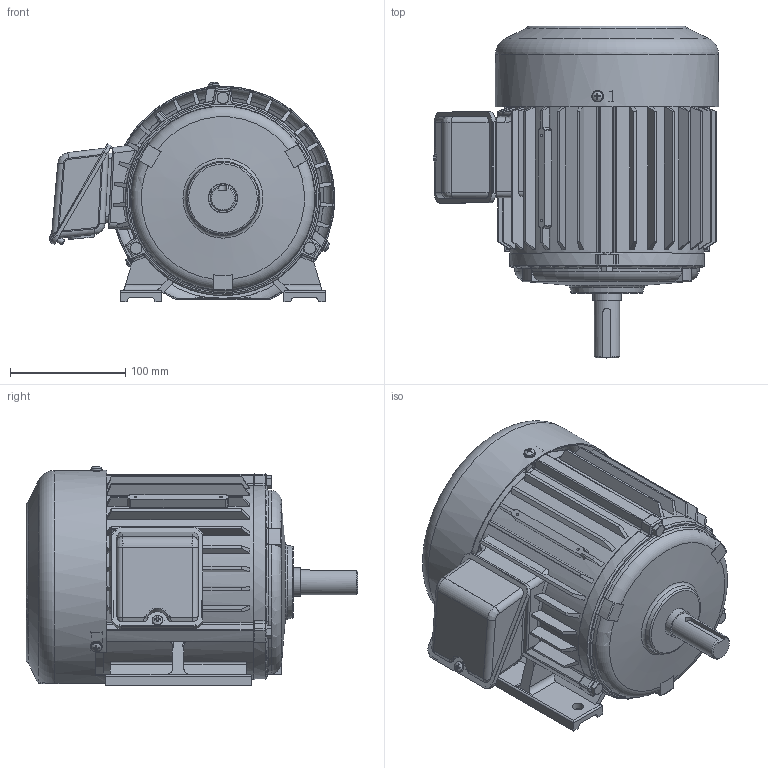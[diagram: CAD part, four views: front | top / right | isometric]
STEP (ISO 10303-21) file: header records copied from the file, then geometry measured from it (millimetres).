
FILE_DESCRIPTION(/* description */ ('Unknown'),/* implementation_level */ '2;1');
FILE_NAME(/* name */ '1-SMA-31977_외형도(160DIA)',/* time_stamp */ '2026-07-24T08:12:22+09:00',/* author */ ('Unknown'),/* organization */ ('Unknown'),/* preprocessor_version */ 'ST-DEVELOPER v16',/* originating_system */ 'DEX',/* authorisation */ $);
FILE_SCHEMA (('AUTOMOTIVE_DESIGN {1 0 10303 214 3 1 1}'));
Length unit declared in the file: millimetre
Products named in the file (22): 1-SMA-31977_寇屈档(160DI; 2-SMA-30852_FRAME(160DIA); 3-SMA-30853_擅粽塭鰍(160D; 4-SMA-30854_菴粽塭鰍(160D; 5-SMA-30855_SHAFT(160DIA); 6-SMA-31242_FAN(160DIA); 7-SMA-30643_FAN COVER(160DIA); 蹴辨 S1S18.par:1; SMA-31381_ROTOR FRONT; SMA-31381_ROTOR REAR; 幫陝獐お M6x1x6x1x25L.par:1; SMA-31467_RT CORE(160DIA); SMA-31467_ST CORE(160DIA); 敲罚瘤 绞磊  杭飘 M5x0; SMA33038,33039_攪嘐割 ; 8-SMA-33038_T-BOX(鼻)(120,140DIA); 9-SMA-33039_T-BOX(ÇÏ)(120~140DIA)tþÌ; T-BOX 憶っ(120~160DIA; T-BOX 歜衛 馨檜綰斜楠萄(120~傽(; 褊濠 菅斬 該葬 獐お M5x; 6205ZZ; 6204ZZ
Assembly tree (28 placements, depth 3):
  1-SMA-31977_寇屈档(160DI
    2-SMA-30852_FRAME(160DIA)
    3-SMA-30853_擅粽塭鰍(160D
    4-SMA-30854_菴粽塭鰍(160D
    5-SMA-30855_SHAFT(160DIA)
    6-SMA-31242_FAN(160DIA)
    7-SMA-30643_FAN COVER(160DIA)
    蹴辨 S1S18.par:1
    SMA-31381_ROTOR FRONT
    SMA-31381_ROTOR REAR
    幫陝獐お M6x1x6x1x25L.par:1  x6
    SMA-31467_RT CORE(160DIA)
    SMA-31467_ST CORE(160DIA)
    敲罚瘤 绞磊  杭飘 M5x0  x3
    SMA33038,33039_攪嘐割 
      8-SMA-33038_T-BOX(鼻)(120,140DIA)
      9-SMA-33039_T-BOX(ÇÏ)(120~140DIA)tþÌ
      T-BOX 憶っ(120~160DIA
      T-BOX 歜衛 馨檜綰斜楠萄(120~傽(
      褊濠 菅斬 該葬 獐お M5x
    6205ZZ
    6204ZZ
Bounding box: 247.67 x 288 x 190.75 mm (x, y, z)
Volume: 2142426 mm3; surface area: 940175 mm2
Topology: 49 solids, 52 shells, 2548 faces, 6770 edges, 4347 vertices
Faces by surface type: plane 944, cylinder 724, cone 336, bspline 317, torus 207, sphere 20
Full cylindrical faces by diameter (mm): 1.7 x2, 2.2 x2, 4.134 x3, 4.917 x12, 5 x7, 6 x17, 8 x6, 9 x4, 10 x7, 18.2 x2, 19.8 x1, 20 x2, 20.6 x1, 22 x3, 24.8 x1, 25 x3, 25.1 x1, 25.6 x1, 27.714 x2, 28 x1, 28.114 x2, 32.714 x2, 33 x2, 33.114 x2, 35 x2, 38.886 x2, 39.286 x2, 43.886 x2, 44.286 x2, 47 x2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
Entity records: 101842 total; most frequent: CARTESIAN_POINT 41103, ORIENTED_EDGE 12168, DIRECTION 11084, EDGE_CURVE 6084, AXIS2_PLACEMENT_3D 4243, VERTEX_POINT 4035, FACE_BOUND 2905, EDGE_LOOP 2881
